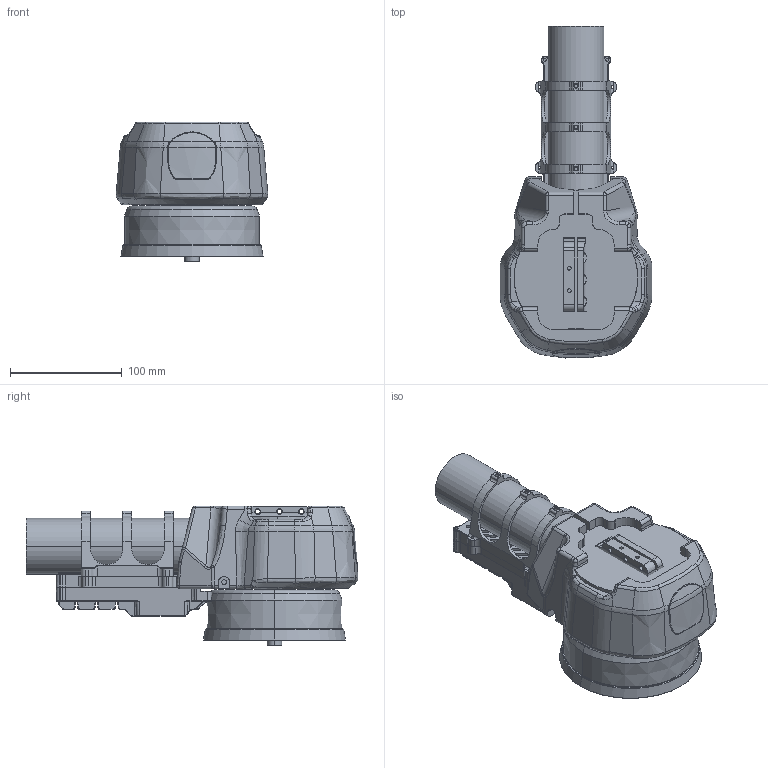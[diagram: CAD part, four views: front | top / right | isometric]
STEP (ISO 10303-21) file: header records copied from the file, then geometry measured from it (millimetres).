
FILE_DESCRIPTION (( 'STEP AP203' ), '1' );
FILE_NAME ('A12L.STEP', '2024-05-31T02:05:49', ( '' ), ( '' ), 'SwSTEP 2.0', 'SolidWorks 2022', '' );
FILE_SCHEMA (( 'CONFIG_CONTROL_DESIGN' ));
Length unit declared in the file: millimetre
Products named in the file (1): A12L
Bounding box: 135.67 x 296.58 x 125.1 mm (x, y, z)
Volume: 1902718.7 mm3; surface area: 311526 mm2
Topology: 9 solids, 11 shells, 2894 faces, 7588 edges, 4692 vertices
Faces by surface type: cylinder 1124, plane 942, bspline 583, cone 121, torus 98, sphere 26
Entity records: 105841 total; most frequent: CARTESIAN_POINT 39131, ORIENTED_EDGE 15148, DIRECTION 12844, EDGE_CURVE 7574, VERTEX_POINT 4690, AXIS2_PLACEMENT_3D 4547, VECTOR 3750, LINE 3750
